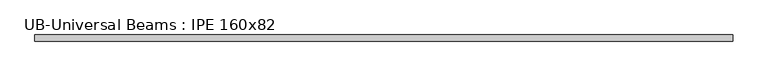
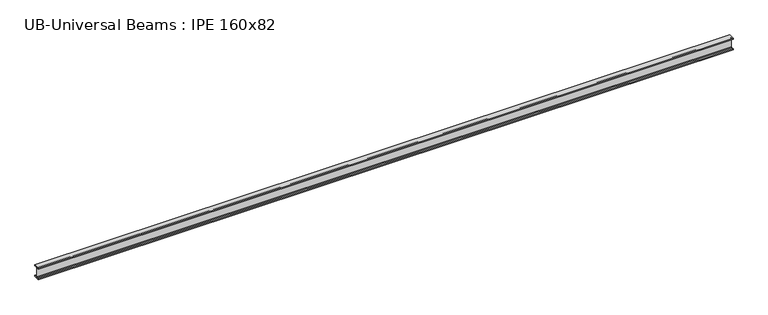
"""IFC4 building model written with IfcOpenShell, lengths in millimetres: beam geometry, UB-Universal Beams : IPE 160x82."""

from ifc_helpers import new_model, si_unit, point, frame, frame_2d, origin, place, context, project, spatial, polyline, circle_curve, trimmed, segment, composite_curve, outline, extrude, source, transform, mapped, element, save


def ub_universal_beams_ipe_160x82_d60b5671(model_context):
    return source(origin(), model_context, "Body", "SweptSolid", [
        extrude(outline(composite_curve([segment(polyline([(41.0, -69.8), (41.0, -80.0), (-41.0, -80.0), (-41.0, -69.8), (-11.9, -69.8)]), True, "CONTINUOUS"), segment(trimmed(circle_curve(frame_2d((-11.9, -60.9)), 8.9), [point((-11.9, -69.8))], [point((-3.0, -60.9))], True, "CARTESIAN"), True, "CONTINUOUS"), segment(polyline([(-3.0, -60.9), (-3.0, 60.9)]), True, "CONTINUOUS"), segment(trimmed(circle_curve(frame_2d((-11.9, 60.9)), 8.9), [point((-3.0, 60.9))], [point((-11.9, 69.8))], True, "CARTESIAN"), True, "CONTINUOUS"), segment(polyline([(-11.9, 69.8), (-41.0, 69.8), (-41.0, 80.0), (41.0, 80.0), (41.0, 69.8), (11.9, 69.8)]), True, "CONTINUOUS"), segment(trimmed(circle_curve(frame_2d((11.9, 60.9)), 8.9), [point((11.9, 69.8))], [point((3.0, 60.9))], True, "CARTESIAN"), True, "CONTINUOUS"), segment(polyline([(3.0, 60.9), (3.0, -60.9)]), True, "CONTINUOUS"), segment(trimmed(circle_curve(frame_2d((11.9, -60.9)), 8.9), [point((3.0, -60.9))], [point((11.9, -69.8))], True, "CARTESIAN"), True, "CONTINUOUS"), segment(polyline([(11.9, -69.8), (41.0, -69.8)]), True, "CONTINUOUS")], self_intersect=False)), frame((-4716.4, 0.0, 0.0), z_axis=(1.0, 0.0, 0.0), x_axis=(0.0, 1.0, 0.0)), (0.0, 0.0, 1.0), 9391.8),
    ])


if __name__ == "__main__":
    model = new_model("IFC4")
    model_context = context("Model", 3, world=origin())
    ifc_project = project(units=[si_unit("LENGTHUNIT", "METRE", prefix="MILLI")], contexts=[model_context])
    site = spatial("IfcSite", under=ifc_project)
    building = spatial("IfcBuilding", under=site)
    placement = place(None, origin())
    ub_universal_beams_ipe_160x82_shape = ub_universal_beams_ipe_160x82_d60b5671(model_context)
    element("IfcBeam", 1, ObjectType="UB-Universal Beams : IPE 160x82", at=placement, inside=building, context=model_context, shape_type="MappedRepresentation", body=[
        mapped(ub_universal_beams_ipe_160x82_shape, transform((0.0, 0.0, 0.0), x_axis=(1.0, 0.0, 0.0), y_axis=(0.0, 1.0, 0.0), z_axis=(0.0, 0.0, 1.0))),
    ])
    save(model, "model.ifc")
